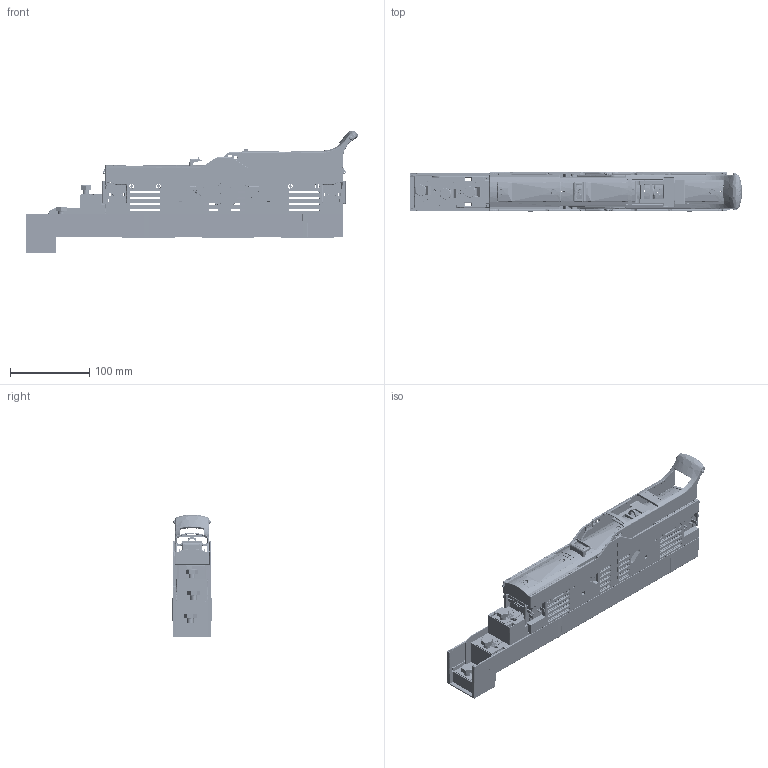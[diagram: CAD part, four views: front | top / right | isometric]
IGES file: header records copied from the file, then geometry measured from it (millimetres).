
Start section: SolidWorks IGES file using analytic representation for surfaces
Global section: file name: U:\14_RD\05_Technical_office\04_Office\Hrdinova\3D modely - IGES\Varius - FSD\FSD00-33K-F.IGS; native system: SolidWorks 2011; preprocessor: SolidWorks 2011; author: adhrja3; date: 170620.120346; units: millimetre
Bounding box: 418.43 x 49.8 x 154.65 mm (x, y, z)
Surface area: 471415.5 mm2 (no closed solid volume)
Topology: 0 solids, 0 shells, 9599 faces, 77435 edges, 77229 vertices
Faces by surface type: bspline 5910, revolution 3689
